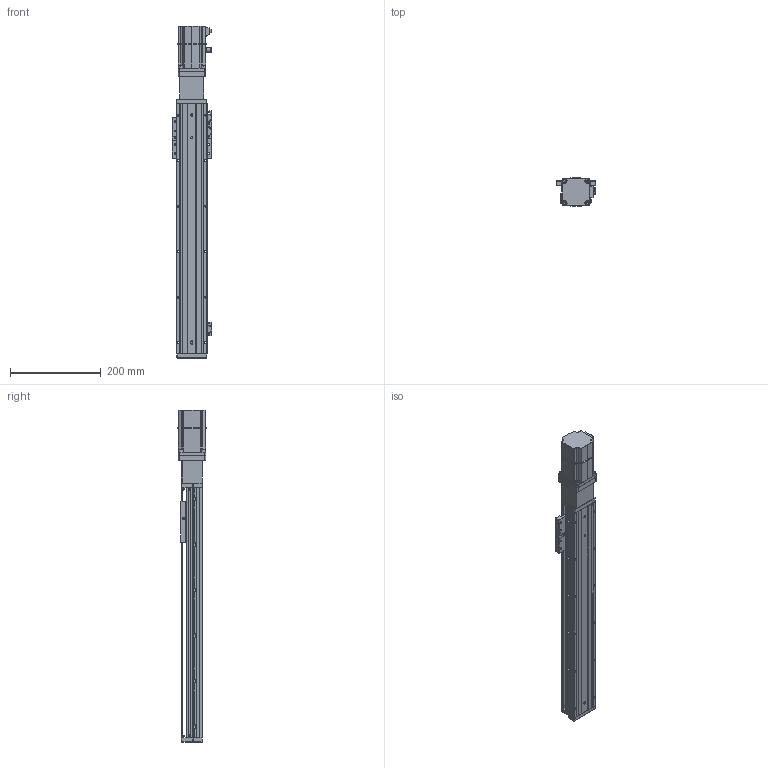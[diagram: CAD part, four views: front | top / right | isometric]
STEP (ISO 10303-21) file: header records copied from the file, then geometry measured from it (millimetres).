
FILE_DESCRIPTION (( 'STEP AP203' ), '1' );
FILE_NAME ('KTHAL60-400-BC-M20-C4L.step', '2022-12-16T01:58:16', ( '微软用户' ), ( '微软中国' ), 'SwSTEP 2.0', 'SolidWorks 2020', '' );
FILE_SCHEMA (( 'CONFIG_CONTROL_DESIGN' ));
Length unit declared in the file: millimetre
Products named in the file (18): KTHLA60-002; CTHA60-021; CTHA60-006-3_M20B; KTHA60-004; GBT 70.1-M4×16; _X2_4E0983F1_X0_200W_1; KTHA60-005; GBT77-2000M3-3; KTHAL60-400-BC-M20-C4L; GB¨uT 70.2-M3¡Á5_M3¡Á6; GBT 70.1-M3℅6; GBT 70.3-M3℅6; CTHA60-016; EE_SX911P_R; CTHA60-027; KTHA60-001_550; CTHA60-017; CTHA60-013
Assembly tree (48 placements, depth 2):
  KTHAL60-400-BC-M20-C4L
    KTHA60-001_550
    KTHLA60-002
    KTHA60-004
    KTHA60-005
    GB¨uT 70.2-M3¡Á5_M3¡Á6  x5
    GBT 70.3-M3℅6  x6
    EE_SX911P_R  x3
    CTHA60-017  x3
    CTHA60-021  x2
    GBT 70.1-M4×16  x8
    GBT77-2000M3-3  x6
    GBT 70.1-M3℅6  x6
    CTHA60-016
    CTHA60-027
    CTHA60-013
    CTHA60-006-3_M20B
    _X2_4E0983F1_X0_200W_1
Bounding box: 87.82 x 62.42 x 729.7 mm (x, y, z)
Volume: 1505926.1 mm3; surface area: 352362.1 mm2
Topology: 51 solids, 51 shells, 2286 faces, 5411 edges, 3313 vertices
Faces by surface type: plane 1237, cylinder 597, cone 291, torus 78, bspline 69, sphere 14
Entity records: 41127 total; most frequent: CARTESIAN_POINT 7942, DIRECTION 6458, ORIENTED_EDGE 6218, EDGE_CURVE 3109, AXIS2_PLACEMENT_3D 2221, LINE 2016, VECTOR 2016, VERTEX_POINT 1935
